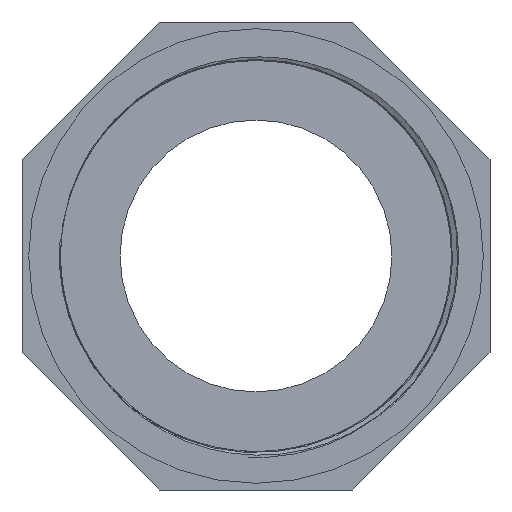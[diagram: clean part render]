
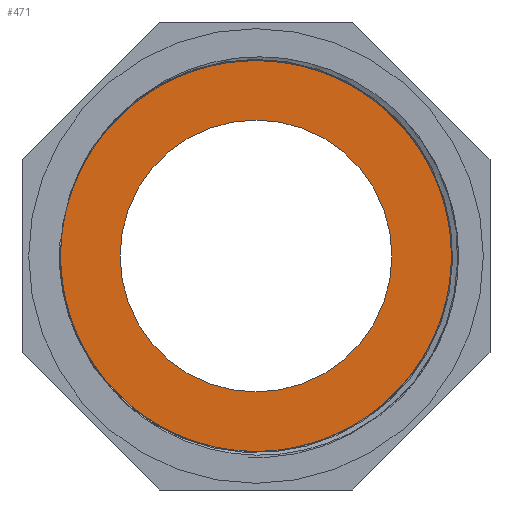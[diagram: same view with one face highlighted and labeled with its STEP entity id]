
A CAD part, front view. The second image highlights one B-rep face of the part: STEP entity #471.
In plain terms, the highlighted planar face has unit normal (0, -1, 0).
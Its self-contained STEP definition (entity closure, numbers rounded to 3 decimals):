
#18=FACE_BOUND('',#159,.T.);
#39=PLANE('',#502);
#126=FACE_OUTER_BOUND('',#158,.T.);
#158=EDGE_LOOP('',(#411));
#159=EDGE_LOOP('',(#412));
#177=CIRCLE('',#501,30.5);
#178=CIRCLE('',#503,43.942);
#242=VERTEX_POINT('',#11658);
#243=VERTEX_POINT('',#11661);
#306=EDGE_CURVE('',#242,#242,#177,.T.);
#307=EDGE_CURVE('',#243,#243,#178,.T.);
#411=ORIENTED_EDGE('',*,*,#307,.F.);
#412=ORIENTED_EDGE('',*,*,#306,.T.);
#471=ADVANCED_FACE('',(#126,#18),#39,.T.);
#501=AXIS2_PLACEMENT_3D('',#11659,#587,#588);
#502=AXIS2_PLACEMENT_3D('',#11660,#589,#590);
#503=AXIS2_PLACEMENT_3D('',#11662,#591,#592);
#587=DIRECTION('center_axis',(0.,1.,0.));
#588=DIRECTION('ref_axis',(1.,0.,0.));
#589=DIRECTION('center_axis',(0.,-1.,0.));
#590=DIRECTION('ref_axis',(0.,0.,-1.));
#591=DIRECTION('center_axis',(0.,1.,0.));
#592=DIRECTION('ref_axis',(1.,0.,0.));
#11658=CARTESIAN_POINT('',(-30.5,38.1,0.));
#11659=CARTESIAN_POINT('Origin',(0.,38.1,0.));
#11660=CARTESIAN_POINT('Origin',(-43.942,38.1,0.));
#11661=CARTESIAN_POINT('',(-43.942,38.1,0.));
#11662=CARTESIAN_POINT('Origin',(0.,38.1,0.));
